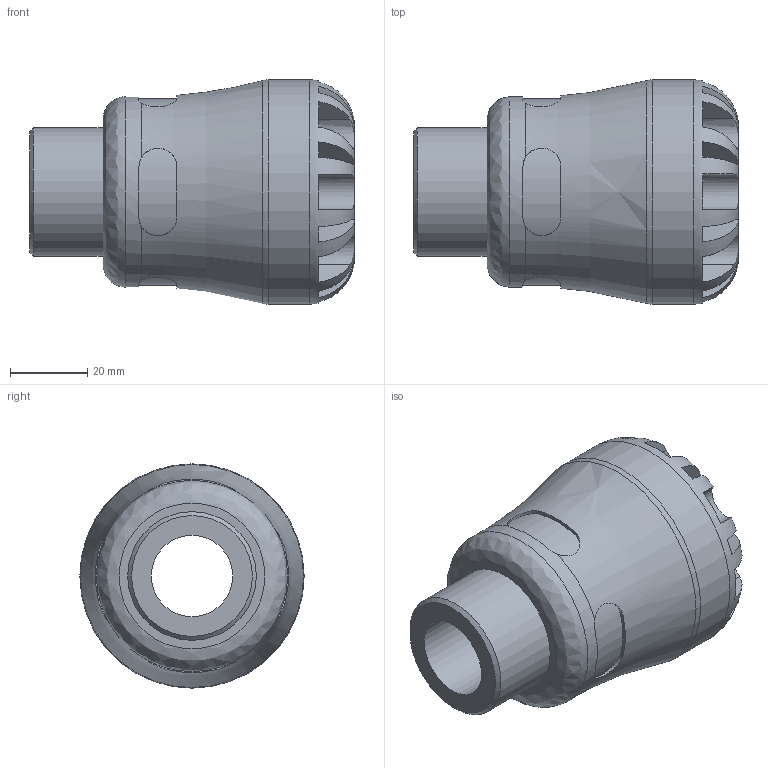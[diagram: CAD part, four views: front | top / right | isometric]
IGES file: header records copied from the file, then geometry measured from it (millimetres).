
Global section: file name: 1002C7028010.ipt; native system: Autodesk Inventor 2015; preprocessor: unknown; author: KIM; date: 20170515.110539; units: millimetre
Bounding box: 84 x 58 x 58 mm (x, y, z)
Volume: 107995.2 mm3; surface area: 24827.3 mm2
Topology: 1 solids, 1 shells, 99 faces, 264 edges, 169 vertices
Faces by surface type: plane 60, revolution 23, cylinder 15, cone 1
Full cylindrical faces by diameter (mm): 33.249 x1, 49.3 x1, 58 x1
